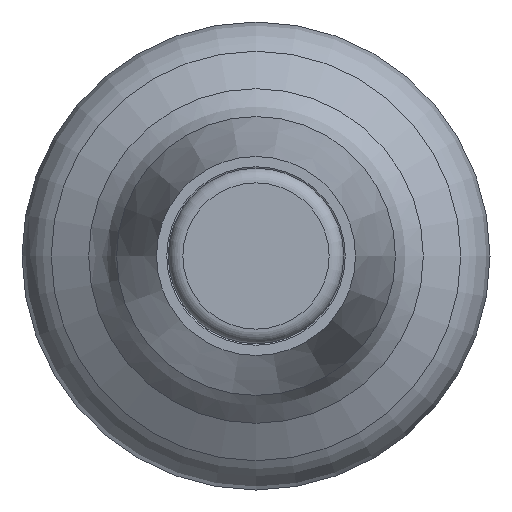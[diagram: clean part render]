
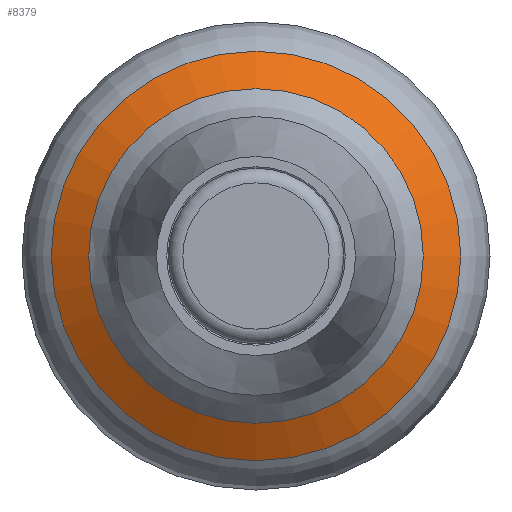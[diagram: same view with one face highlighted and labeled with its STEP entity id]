
A CAD part, front view. The second image highlights one B-rep face of the part: STEP entity #8379.
In plain terms, the highlighted conical face has half-angle 60 degrees and reference radius 6.479 mm.
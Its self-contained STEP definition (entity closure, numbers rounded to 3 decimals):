
#8348=CARTESIAN_POINT('',(-7.,-2.797,0.));
#8349=VERTEX_POINT('',#8348);
#8350=CARTESIAN_POINT('',(0.0,-2.797,0.));
#8351=DIRECTION('',(0.0,1.0,0.0));
#8352=DIRECTION('',(1.0,0.0,0.0));
#8353=AXIS2_PLACEMENT_3D('',#8350,#8351,#8352);
#8354=CIRCLE('',#8353,7.);
#8355=EDGE_CURVE('',#8349,#8349,#8354,.T.);
#8360=CARTESIAN_POINT('',(0.0,-3.098,0.0));
#8361=DIRECTION('',(0.0,1.0,0.0));
#8362=DIRECTION('',(-1.0,0.0,0.0));
#8363=AXIS2_PLACEMENT_3D('',#8360,#8361,#8362);
#8364=CONICAL_SURFACE('',#8363,6.478,60.);
#8365=CARTESIAN_POINT('',(-5.719,-3.537,0.0));
#8366=VERTEX_POINT('',#8365);
#8367=CARTESIAN_POINT('',(0.0,-3.537,0.));
#8368=DIRECTION('',(0.0,-1.0,0.0));
#8369=DIRECTION('',(1.0,0.0,0.0));
#8370=AXIS2_PLACEMENT_3D('',#8367,#8368,#8369);
#8371=CIRCLE('',#8370,5.719);
#8372=EDGE_CURVE('',#8366,#8366,#8371,.T.);
#8373=ORIENTED_EDGE('',*,*,#8372,.F.);
#8374=EDGE_LOOP('',(#8373));
#8375=FACE_OUTER_BOUND('',#8374,.T.);
#8376=ORIENTED_EDGE('',*,*,#8355,.F.);
#8377=EDGE_LOOP('',(#8376));
#8378=FACE_BOUND('',#8377,.T.);
#8379=ADVANCED_FACE('',(#8375,#8378),#8364,.T.);
